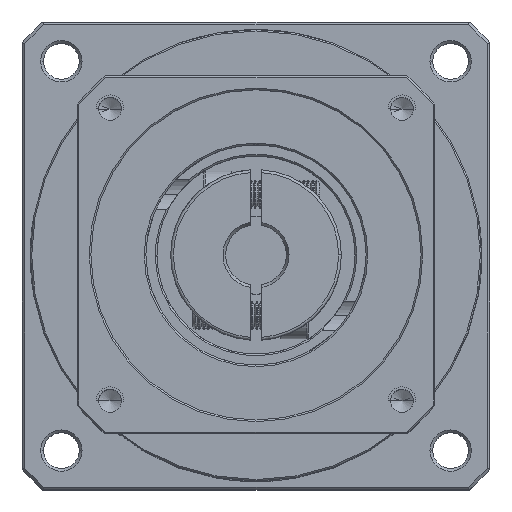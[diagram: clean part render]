
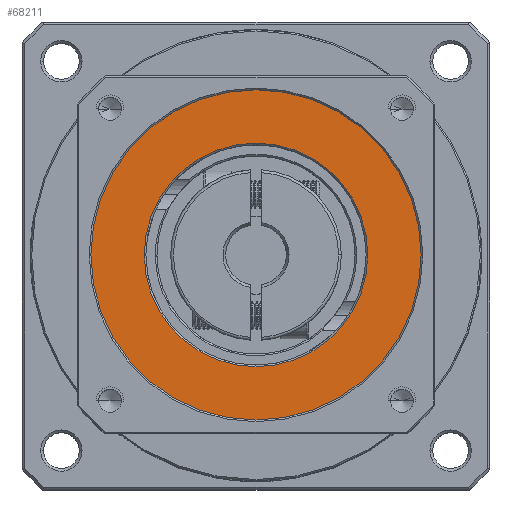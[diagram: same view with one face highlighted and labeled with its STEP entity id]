
A CAD part, top view. The second image highlights one B-rep face of the part: STEP entity #68211.
In plain terms, the highlighted planar face has unit normal (0, 0, 1).
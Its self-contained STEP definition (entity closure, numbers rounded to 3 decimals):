
#6681 = CIRCLE ( 'NONE', #102207, 20.3 ) ;
#7071 = FACE_BOUND ( 'NONE', #112171, .T. ) ;
#7488 = CARTESIAN_POINT ( 'NONE',  ( -77.324, 64.145, 1.801 ) ) ;
#9409 = EDGE_CURVE ( 'NONE', #86894, #42547, #62289, .T. ) ;
#13292 = CARTESIAN_POINT ( 'NONE',  ( -77.324, 64.145, 1.801 ) ) ;
#13723 = DIRECTION ( 'NONE',  ( 1., 0., 0. ) ) ;
#18649 = DIRECTION ( 'NONE',  ( 1., 0., 0. ) ) ;
#25083 = VERTEX_POINT ( 'NONE', #96908 ) ;
#26699 = ORIENTED_EDGE ( 'NONE', *, *, #102243, .T. ) ;
#31745 = CARTESIAN_POINT ( 'NONE',  ( -107.324, 64.145, 1.801 ) ) ;
#42547 = VERTEX_POINT ( 'NONE', #72819 ) ;
#45474 = DIRECTION ( 'NONE',  ( 1., 0., 0. ) ) ;
#45482 = AXIS2_PLACEMENT_3D ( 'NONE', #7488, #57433, #128326 ) ;
#47991 = ORIENTED_EDGE ( 'NONE', *, *, #106234, .T. ) ;
#57433 = DIRECTION ( 'NONE',  ( 0., 0., 1. ) ) ;
#59207 = DIRECTION ( 'NONE',  ( 0., 0., -1. ) ) ;
#61650 = CIRCLE ( 'NONE', #106304, 20.3 ) ;
#62057 = PLANE ( 'NONE',  #90532 ) ;
#62289 = CIRCLE ( 'NONE', #45482, 30. ) ;
#65533 = DIRECTION ( 'NONE',  ( 0., 0., 1. ) ) ;
#66254 = ORIENTED_EDGE ( 'NONE', *, *, #83379, .T. ) ;
#68211 = ADVANCED_FACE ( 'NONE', ( #7071, #125233 ), #62057, .T. ) ;
#71602 = VERTEX_POINT ( 'NONE', #78489 ) ;
#72819 = CARTESIAN_POINT ( 'NONE',  ( -47.324, 64.145, 1.801 ) ) ;
#78489 = CARTESIAN_POINT ( 'NONE',  ( -97.624, 64.145, 1.801 ) ) ;
#80102 = ORIENTED_EDGE ( 'NONE', *, *, #9409, .T. ) ;
#80961 = AXIS2_PLACEMENT_3D ( 'NONE', #13292, #115845, #13723 ) ;
#83379 = EDGE_CURVE ( 'NONE', #71602, #25083, #6681, .T. ) ;
#85653 = DIRECTION ( 'NONE',  ( 1., 0., 0. ) ) ;
#86894 = VERTEX_POINT ( 'NONE', #31745 ) ;
#88277 = CIRCLE ( 'NONE', #80961, 30. ) ;
#90532 = AXIS2_PLACEMENT_3D ( 'NONE', #126606, #65533, #45474 ) ;
#91173 = EDGE_LOOP ( 'NONE', ( #26699, #80102 ) ) ;
#96718 = CARTESIAN_POINT ( 'NONE',  ( -77.324, 64.145, 1.801 ) ) ;
#96908 = CARTESIAN_POINT ( 'NONE',  ( -57.024, 64.145, 1.801 ) ) ;
#102207 = AXIS2_PLACEMENT_3D ( 'NONE', #110399, #59207, #18649 ) ;
#102243 = EDGE_CURVE ( 'NONE', #42547, #86894, #88277, .T. ) ;
#106234 = EDGE_CURVE ( 'NONE', #25083, #71602, #61650, .T. ) ;
#106304 = AXIS2_PLACEMENT_3D ( 'NONE', #96718, #126650, #85653 ) ;
#110399 = CARTESIAN_POINT ( 'NONE',  ( -77.324, 64.145, 1.801 ) ) ;
#112171 = EDGE_LOOP ( 'NONE', ( #47991, #66254 ) ) ;
#115845 = DIRECTION ( 'NONE',  ( 0., 0., 1. ) ) ;
#125233 = FACE_OUTER_BOUND ( 'NONE', #91173, .T. ) ;
#126606 = CARTESIAN_POINT ( 'NONE',  ( -77.324, 64.145, 1.801 ) ) ;
#126650 = DIRECTION ( 'NONE',  ( 0., 0., -1. ) ) ;
#128326 = DIRECTION ( 'NONE',  ( 1., 0., 0. ) ) ;
